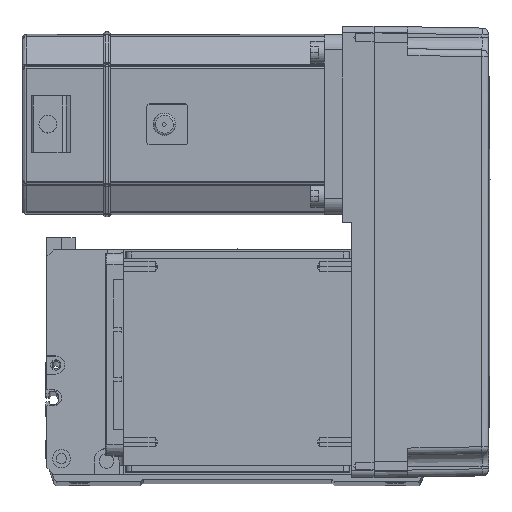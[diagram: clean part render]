
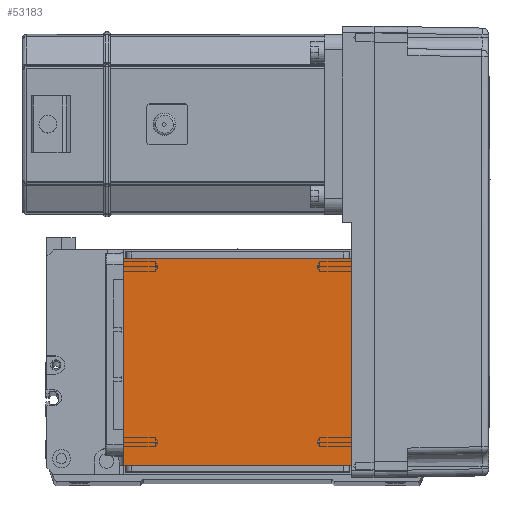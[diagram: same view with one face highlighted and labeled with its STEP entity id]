
A CAD part, top view. The second image highlights one B-rep face of the part: STEP entity #53183.
In plain terms, the highlighted planar face has unit normal (0, 0, 1).
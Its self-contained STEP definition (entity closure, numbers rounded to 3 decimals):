
#4142 = ORIENTED_EDGE ( 'NONE', *, *, #28865, .F. ) ;
#4545 = LINE ( 'NONE', #19166, #53455 ) ;
#5246 = LINE ( 'NONE', #46112, #27985 ) ;
#10171 = PLANE ( 'NONE',  #10499 ) ;
#10369 = DIRECTION ( 'NONE',  ( 0., 0., 1. ) ) ;
#10499 = AXIS2_PLACEMENT_3D ( 'NONE', #24251, #10369, #15507 ) ;
#14000 = VERTEX_POINT ( 'NONE', #35269 ) ;
#15507 = DIRECTION ( 'NONE',  ( 1., 0., 0. ) ) ;
#18248 = VERTEX_POINT ( 'NONE', #18623 ) ;
#18623 = CARTESIAN_POINT ( 'NONE',  ( 50.5, 20., 115. ) ) ;
#19166 = CARTESIAN_POINT ( 'NONE',  ( -70.004, 20., 115. ) ) ;
#19173 = ORIENTED_EDGE ( 'NONE', *, *, #41083, .F. ) ;
#20487 = VECTOR ( 'NONE', #33688, 1000. ) ;
#21182 = DIRECTION ( 'NONE',  ( 1., 0., 0. ) ) ;
#24115 = FACE_OUTER_BOUND ( 'NONE', #58187, .T. ) ;
#24251 = CARTESIAN_POINT ( 'NONE',  ( 0., 0., 115. ) ) ;
#27985 = VECTOR ( 'NONE', #45541, 1000. ) ;
#28865 = EDGE_CURVE ( 'NONE', #18248, #14000, #4545, .T. ) ;
#29208 = ORIENTED_EDGE ( 'NONE', *, *, #58623, .T. ) ;
#30319 = VECTOR ( 'NONE', #21182, 1000. ) ;
#33369 = ORIENTED_EDGE ( 'NONE', *, *, #55749, .T. ) ;
#33688 = DIRECTION ( 'NONE',  ( 0., -1., 0. ) ) ;
#34969 = CARTESIAN_POINT ( 'NONE',  ( -50.5, 111.5, 115. ) ) ;
#35269 = CARTESIAN_POINT ( 'NONE',  ( -50.5, 20., 115. ) ) ;
#37380 = DIRECTION ( 'NONE',  ( -1., 0., 0. ) ) ;
#39012 = CARTESIAN_POINT ( 'NONE',  ( -70.004, 111.5, 115. ) ) ;
#41083 = EDGE_CURVE ( 'NONE', #52054, #54307, #42312, .T. ) ;
#41728 = LINE ( 'NONE', #47737, #20487 ) ;
#42312 = LINE ( 'NONE', #39012, #30319 ) ;
#45541 = DIRECTION ( 'NONE',  ( 0., 1., 0. ) ) ;
#46112 = CARTESIAN_POINT ( 'NONE',  ( 50.5, 122., 115. ) ) ;
#47737 = CARTESIAN_POINT ( 'NONE',  ( -50.5, 122., 115. ) ) ;
#52054 = VERTEX_POINT ( 'NONE', #34969 ) ;
#53183 = ADVANCED_FACE ( 'NONE', ( #24115 ), #10171, .T. ) ;
#53455 = VECTOR ( 'NONE', #37380, 1000. ) ;
#54307 = VERTEX_POINT ( 'NONE', #54402 ) ;
#54402 = CARTESIAN_POINT ( 'NONE',  ( 50.5, 111.5, 115. ) ) ;
#55749 = EDGE_CURVE ( 'NONE', #52054, #14000, #41728, .T. ) ;
#58187 = EDGE_LOOP ( 'NONE', ( #19173, #33369, #4142, #29208 ) ) ;
#58623 = EDGE_CURVE ( 'NONE', #18248, #54307, #5246, .T. ) ;
